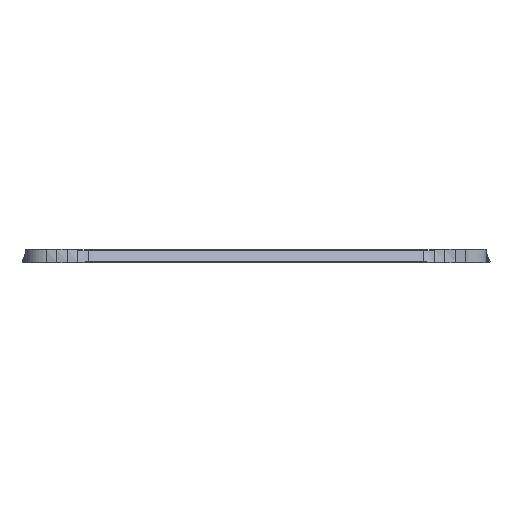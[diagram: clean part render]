
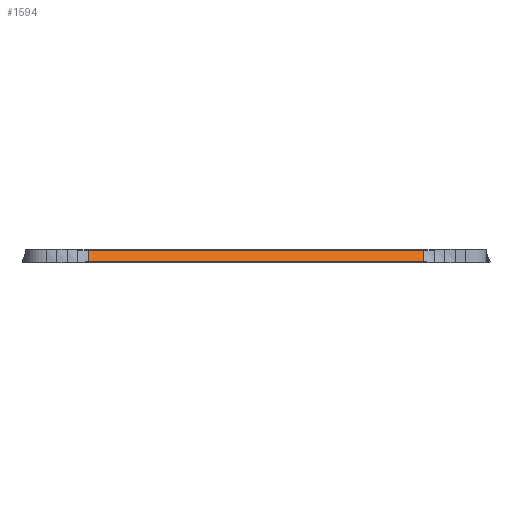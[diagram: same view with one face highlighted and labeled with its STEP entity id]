
A CAD part, front view. The second image highlights one B-rep face of the part: STEP entity #1594.
In plain terms, the highlighted planar face has unit normal (0, -0.906, 0.423).
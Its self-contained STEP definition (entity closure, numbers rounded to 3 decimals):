
#1594 = ADVANCED_FACE('',(#1595),#1609,.F.);
#1595 = FACE_BOUND('',#1596,.F.);
#1596 = EDGE_LOOP('',(#1597,#1632,#1657,#1685));
#1597 = ORIENTED_EDGE('',*,*,#1598,.T.);
#1598 = EDGE_CURVE('',#1599,#1601,#1603,.T.);
#1599 = VERTEX_POINT('',#1600);
#1600 = CARTESIAN_POINT('',(-128.,-162.533,12.45));
#1601 = VERTEX_POINT('',#1602);
#1602 = CARTESIAN_POINT('',(-128.,-158.222,21.695));
#1603 = SURFACE_CURVE('',#1604,(#1608,#1620),.PCURVE_S1.);
#1604 = LINE('',#1605,#1606);
#1605 = CARTESIAN_POINT('',(-128.,-162.533,12.45));
#1606 = VECTOR('',#1607,1.);
#1607 = DIRECTION('',(0.,0.423,0.906));
#1608 = PCURVE('',#1609,#1614);
#1609 = PLANE('',#1610);
#1610 = AXIS2_PLACEMENT_3D('',#1611,#1612,#1613);
#1611 = CARTESIAN_POINT('',(128.,-162.533,12.45));
#1612 = DIRECTION('',(0.,0.906,-0.423));
#1613 = DIRECTION('',(0.,0.423,0.906));
#1614 = DEFINITIONAL_REPRESENTATION('',(#1615),#1619);
#1615 = LINE('',#1616,#1617);
#1616 = CARTESIAN_POINT('',(0.,-256.));
#1617 = VECTOR('',#1618,1.);
#1618 = DIRECTION('',(1.,0.));
#1619 = ( GEOMETRIC_REPRESENTATION_CONTEXT(2) 
PARAMETRIC_REPRESENTATION_CONTEXT() REPRESENTATION_CONTEXT('2D SPACE',''
  ) );
#1620 = PCURVE('',#1621,#1626);
#1621 = PLANE('',#1622);
#1622 = AXIS2_PLACEMENT_3D('',#1623,#1624,#1625);
#1623 = CARTESIAN_POINT('',(-128.,-162.533,12.45));
#1624 = DIRECTION('',(-1.,0.,0.));
#1625 = DIRECTION('',(0.,0.517,0.856));
#1626 = DEFINITIONAL_REPRESENTATION('',(#1627),#1631);
#1627 = LINE('',#1628,#1629);
#1628 = CARTESIAN_POINT('',(0.,0.));
#1629 = VECTOR('',#1630,1.);
#1630 = DIRECTION('',(0.994,-0.107));
#1631 = ( GEOMETRIC_REPRESENTATION_CONTEXT(2) 
PARAMETRIC_REPRESENTATION_CONTEXT() REPRESENTATION_CONTEXT('2D SPACE',''
  ) );
#1632 = ORIENTED_EDGE('',*,*,#1633,.T.);
#1633 = EDGE_CURVE('',#1601,#1634,#1636,.T.);
#1634 = VERTEX_POINT('',#1635);
#1635 = CARTESIAN_POINT('',(128.,-158.222,21.695));
#1636 = SURFACE_CURVE('',#1637,(#1640,#1646),.PCURVE_S1.);
#1637 = B_SPLINE_CURVE_WITH_KNOTS('',1,(#1638,#1639),.UNSPECIFIED.,.F.,
  .F.,(2,2),(0.,1.),.PIECEWISE_BEZIER_KNOTS.);
#1638 = CARTESIAN_POINT('',(-128.,-158.222,21.695));
#1639 = CARTESIAN_POINT('',(128.,-158.222,21.695));
#1640 = PCURVE('',#1609,#1641);
#1641 = DEFINITIONAL_REPRESENTATION('',(#1642),#1645);
#1642 = B_SPLINE_CURVE_WITH_KNOTS('',1,(#1643,#1644),.UNSPECIFIED.,.F.,
  .F.,(2,2),(0.,1.),.PIECEWISE_BEZIER_KNOTS.);
#1643 = CARTESIAN_POINT('',(10.2,-256.));
#1644 = CARTESIAN_POINT('',(10.2,0.));
#1645 = ( GEOMETRIC_REPRESENTATION_CONTEXT(2) 
PARAMETRIC_REPRESENTATION_CONTEXT() REPRESENTATION_CONTEXT('2D SPACE',''
  ) );
#1646 = PCURVE('',#1647,#1652);
#1647 = PLANE('',#1648);
#1648 = AXIS2_PLACEMENT_3D('',#1649,#1650,#1651);
#1649 = CARTESIAN_POINT('',(128.,-158.222,21.695));
#1650 = DIRECTION('',(0.,-0.423,-0.906));
#1651 = DIRECTION('',(0.,0.906,-0.423));
#1652 = DEFINITIONAL_REPRESENTATION('',(#1653),#1656);
#1653 = B_SPLINE_CURVE_WITH_KNOTS('',1,(#1654,#1655),.UNSPECIFIED.,.F.,
  .F.,(2,2),(0.,1.),.PIECEWISE_BEZIER_KNOTS.);
#1654 = CARTESIAN_POINT('',(0.,-256.));
#1655 = CARTESIAN_POINT('',(0.,0.));
#1656 = ( GEOMETRIC_REPRESENTATION_CONTEXT(2) 
PARAMETRIC_REPRESENTATION_CONTEXT() REPRESENTATION_CONTEXT('2D SPACE',''
  ) );
#1657 = ORIENTED_EDGE('',*,*,#1658,.F.);
#1658 = EDGE_CURVE('',#1659,#1634,#1661,.T.);
#1659 = VERTEX_POINT('',#1660);
#1660 = CARTESIAN_POINT('',(128.,-162.533,12.45));
#1661 = SURFACE_CURVE('',#1662,(#1666,#1673),.PCURVE_S1.);
#1662 = LINE('',#1663,#1664);
#1663 = CARTESIAN_POINT('',(128.,-162.533,12.45));
#1664 = VECTOR('',#1665,1.);
#1665 = DIRECTION('',(0.,0.423,0.906));
#1666 = PCURVE('',#1609,#1667);
#1667 = DEFINITIONAL_REPRESENTATION('',(#1668),#1672);
#1668 = LINE('',#1669,#1670);
#1669 = CARTESIAN_POINT('',(0.,0.));
#1670 = VECTOR('',#1671,1.);
#1671 = DIRECTION('',(1.,0.));
#1672 = ( GEOMETRIC_REPRESENTATION_CONTEXT(2) 
PARAMETRIC_REPRESENTATION_CONTEXT() REPRESENTATION_CONTEXT('2D SPACE',''
  ) );
#1673 = PCURVE('',#1674,#1679);
#1674 = PLANE('',#1675);
#1675 = AXIS2_PLACEMENT_3D('',#1676,#1677,#1678);
#1676 = CARTESIAN_POINT('',(128.,-162.533,12.45));
#1677 = DIRECTION('',(-1.,0.,0.));
#1678 = DIRECTION('',(0.,0.517,0.856));
#1679 = DEFINITIONAL_REPRESENTATION('',(#1680),#1684);
#1680 = LINE('',#1681,#1682);
#1681 = CARTESIAN_POINT('',(0.,0.));
#1682 = VECTOR('',#1683,1.);
#1683 = DIRECTION('',(0.994,-0.107));
#1684 = ( GEOMETRIC_REPRESENTATION_CONTEXT(2) 
PARAMETRIC_REPRESENTATION_CONTEXT() REPRESENTATION_CONTEXT('2D SPACE',''
  ) );
#1685 = ORIENTED_EDGE('',*,*,#1686,.F.);
#1686 = EDGE_CURVE('',#1599,#1659,#1687,.T.);
#1687 = SURFACE_CURVE('',#1688,(#1691,#1697),.PCURVE_S1.);
#1688 = B_SPLINE_CURVE_WITH_KNOTS('',1,(#1689,#1690),.UNSPECIFIED.,.F.,
  .F.,(2,2),(0.,1.),.PIECEWISE_BEZIER_KNOTS.);
#1689 = CARTESIAN_POINT('',(-128.,-162.533,12.45));
#1690 = CARTESIAN_POINT('',(128.,-162.533,12.45));
#1691 = PCURVE('',#1609,#1692);
#1692 = DEFINITIONAL_REPRESENTATION('',(#1693),#1696);
#1693 = B_SPLINE_CURVE_WITH_KNOTS('',1,(#1694,#1695),.UNSPECIFIED.,.F.,
  .F.,(2,2),(0.,1.),.PIECEWISE_BEZIER_KNOTS.);
#1694 = CARTESIAN_POINT('',(0.,-256.));
#1695 = CARTESIAN_POINT('',(0.,0.));
#1696 = ( GEOMETRIC_REPRESENTATION_CONTEXT(2) 
PARAMETRIC_REPRESENTATION_CONTEXT() REPRESENTATION_CONTEXT('2D SPACE',''
  ) );
#1697 = PCURVE('',#1698,#1703);
#1698 = PLANE('',#1699);
#1699 = AXIS2_PLACEMENT_3D('',#1700,#1701,#1702);
#1700 = CARTESIAN_POINT('',(128.,-161.536,11.986));
#1701 = DIRECTION('',(-0.,0.423,0.906));
#1702 = DIRECTION('',(0.,-0.906,0.423));
#1703 = DEFINITIONAL_REPRESENTATION('',(#1704),#1707);
#1704 = B_SPLINE_CURVE_WITH_KNOTS('',1,(#1705,#1706),.UNSPECIFIED.,.F.,
  .F.,(2,2),(0.,1.),.PIECEWISE_BEZIER_KNOTS.);
#1705 = CARTESIAN_POINT('',(1.1,-256.));
#1706 = CARTESIAN_POINT('',(1.1,0.));
#1707 = ( GEOMETRIC_REPRESENTATION_CONTEXT(2) 
PARAMETRIC_REPRESENTATION_CONTEXT() REPRESENTATION_CONTEXT('2D SPACE',''
  ) );
